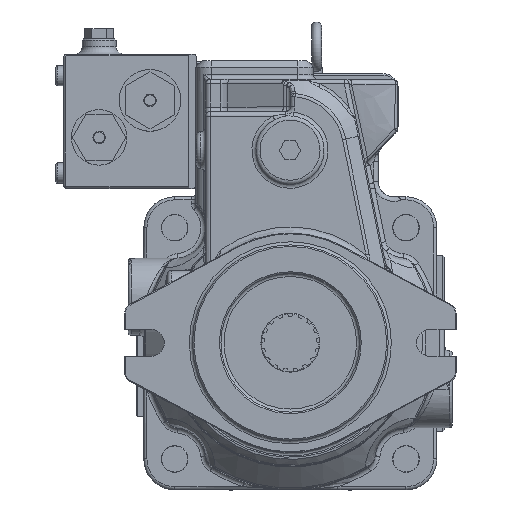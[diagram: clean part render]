
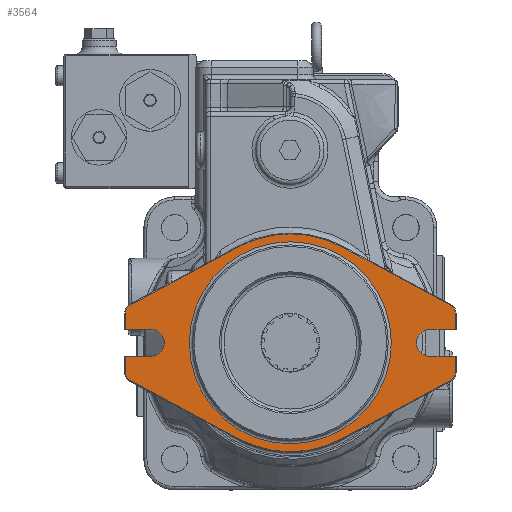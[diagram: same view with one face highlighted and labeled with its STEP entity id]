
A CAD part, top view. The second image highlights one B-rep face of the part: STEP entity #3564.
In plain terms, the highlighted planar face has unit normal (0, 0, 1).
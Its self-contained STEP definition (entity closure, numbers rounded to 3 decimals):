
#1576=CARTESIAN_POINT('',(-90.5,8.75,25.296));
#1577=VERTEX_POINT('',#1576);
#1584=CARTESIAN_POINT('',(-107.,8.75,25.296));
#1585=VERTEX_POINT('',#1584);
#1586=CARTESIAN_POINT('',(-90.5,8.75,25.296));
#1587=DIRECTION('',(-1.0,0.0,0.0));
#1588=VECTOR('',#1587,16.5);
#1589=LINE('',#1586,#1588);
#1590=EDGE_CURVE('',#1577,#1585,#1589,.T.);
#1960=CARTESIAN_POINT('',(90.5,-8.75,25.296));
#1961=VERTEX_POINT('',#1960);
#1968=CARTESIAN_POINT('',(107.,-8.75,25.296));
#1969=VERTEX_POINT('',#1968);
#1970=CARTESIAN_POINT('',(90.5,-8.75,25.296));
#1971=DIRECTION('',(1.0,0.0,0.0));
#1972=VECTOR('',#1971,16.5);
#1973=LINE('',#1970,#1972);
#1974=EDGE_CURVE('',#1961,#1969,#1973,.T.);
#2135=CARTESIAN_POINT('',(107.,8.75,25.296));
#2136=VERTEX_POINT('',#2135);
#2143=CARTESIAN_POINT('',(90.5,8.75,25.296));
#2144=VERTEX_POINT('',#2143);
#2145=CARTESIAN_POINT('',(107.,8.75,25.296));
#2146=DIRECTION('',(-1.0,0.0,0.0));
#2147=VECTOR('',#2146,16.5);
#2148=LINE('',#2145,#2147);
#2149=EDGE_CURVE('',#2136,#2144,#2148,.T.);
#2270=CARTESIAN_POINT('',(-107.,-8.75,25.296));
#2271=VERTEX_POINT('',#2270);
#2279=CARTESIAN_POINT('',(-107.,-19.23,25.296));
#2280=VERTEX_POINT('',#2279);
#2287=CARTESIAN_POINT('',(-107.,-19.23,25.296));
#2288=DIRECTION('',(0.0,1.0,0.0));
#2289=VECTOR('',#2288,10.48);
#2290=LINE('',#2287,#2289);
#2291=EDGE_CURVE('',#2280,#2271,#2290,.T.);
#2301=CARTESIAN_POINT('',(-103.872,-24.459,25.296));
#2302=VERTEX_POINT('',#2301);
#2309=CARTESIAN_POINT('',(-101.065,-19.23,25.296));
#2310=DIRECTION('',(0.,0.,-1.0));
#2311=DIRECTION('',(-0.473,-0.881,0.));
#2312=AXIS2_PLACEMENT_3D('',#2309,#2310,#2311);
#2313=CIRCLE('',#2312,5.935);
#2314=EDGE_CURVE('',#2302,#2280,#2313,.T.);
#2326=CARTESIAN_POINT('',(-33.433,-62.275,25.296));
#2327=VERTEX_POINT('',#2326);
#2334=CARTESIAN_POINT('',(-33.433,-62.275,25.296));
#2335=DIRECTION('',(-0.881,0.473,0.));
#2336=VECTOR('',#2335,79.948);
#2337=LINE('',#2334,#2336);
#2338=EDGE_CURVE('',#2327,#2302,#2337,.T.);
#2352=CARTESIAN_POINT('',(33.433,-62.275,25.296));
#2353=VERTEX_POINT('',#2352);
#2360=CARTESIAN_POINT('',(0.,0.,25.296));
#2361=DIRECTION('',(0.,0.,-1.0));
#2362=DIRECTION('',(0.473,-0.881,0.));
#2363=AXIS2_PLACEMENT_3D('',#2360,#2361,#2362);
#2364=CIRCLE('',#2363,70.683);
#2365=EDGE_CURVE('',#2353,#2327,#2364,.T.);
#2383=CARTESIAN_POINT('',(103.872,-24.459,25.296));
#2384=VERTEX_POINT('',#2383);
#2391=CARTESIAN_POINT('',(103.872,-24.459,25.296));
#2392=DIRECTION('',(-0.881,-0.473,0.));
#2393=VECTOR('',#2392,79.948);
#2394=LINE('',#2391,#2393);
#2395=EDGE_CURVE('',#2384,#2353,#2394,.T.);
#2412=CARTESIAN_POINT('',(107.,-19.23,25.296));
#2413=VERTEX_POINT('',#2412);
#2420=CARTESIAN_POINT('',(101.065,-19.23,25.296));
#2421=DIRECTION('',(0.0,0.0,-1.0));
#2422=DIRECTION('',(1.0,0.0,0.0));
#2423=AXIS2_PLACEMENT_3D('',#2420,#2421,#2422);
#2424=CIRCLE('',#2423,5.935);
#2425=EDGE_CURVE('',#2413,#2384,#2424,.T.);
#2438=CARTESIAN_POINT('',(107.,-8.75,25.296));
#2439=DIRECTION('',(0.0,-1.0,0.0));
#2440=VECTOR('',#2439,10.48);
#2441=LINE('',#2438,#2440);
#2442=EDGE_CURVE('',#1969,#2413,#2441,.T.);
#2474=CARTESIAN_POINT('',(-90.5,-8.75,25.296));
#2475=VERTEX_POINT('',#2474);
#2476=CARTESIAN_POINT('',(-107.,-8.75,25.296));
#2477=DIRECTION('',(1.0,0.0,0.0));
#2478=VECTOR('',#2477,16.5);
#2479=LINE('',#2476,#2478);
#2480=EDGE_CURVE('',#2271,#2475,#2479,.T.);
#2497=CARTESIAN_POINT('',(-33.433,62.275,25.296));
#2498=VERTEX_POINT('',#2497);
#2505=CARTESIAN_POINT('',(33.433,62.275,25.296));
#2506=VERTEX_POINT('',#2505);
#2507=CARTESIAN_POINT('',(0.,0.,25.296));
#2508=DIRECTION('',(0.,0.,-1.0));
#2509=DIRECTION('',(-0.473,0.881,0.));
#2510=AXIS2_PLACEMENT_3D('',#2507,#2508,#2509);
#2511=CIRCLE('',#2510,70.683);
#2512=EDGE_CURVE('',#2498,#2506,#2511,.T.);
#2535=CARTESIAN_POINT('',(-103.872,24.459,25.296));
#2536=VERTEX_POINT('',#2535);
#2543=CARTESIAN_POINT('',(-103.872,24.459,25.296));
#2544=DIRECTION('',(0.881,0.473,0.));
#2545=VECTOR('',#2544,79.948);
#2546=LINE('',#2543,#2545);
#2547=EDGE_CURVE('',#2536,#2498,#2546,.T.);
#2559=CARTESIAN_POINT('',(103.872,24.459,25.296));
#2560=VERTEX_POINT('',#2559);
#2569=CARTESIAN_POINT('',(33.433,62.275,25.296));
#2570=DIRECTION('',(0.881,-0.473,0.));
#2571=VECTOR('',#2570,79.948);
#2572=LINE('',#2569,#2571);
#2573=EDGE_CURVE('',#2506,#2560,#2572,.T.);
#2583=CARTESIAN_POINT('',(-107.,19.23,25.296));
#2584=VERTEX_POINT('',#2583);
#2591=CARTESIAN_POINT('',(-101.065,19.23,25.296));
#2592=DIRECTION('',(0.0,0.0,-1.0));
#2593=DIRECTION('',(-1.0,0.0,0.0));
#2594=AXIS2_PLACEMENT_3D('',#2591,#2592,#2593);
#2595=CIRCLE('',#2594,5.935);
#2596=EDGE_CURVE('',#2584,#2536,#2595,.T.);
#2608=CARTESIAN_POINT('',(107.,19.23,25.296));
#2609=VERTEX_POINT('',#2608);
#2618=CARTESIAN_POINT('',(101.065,19.23,25.296));
#2619=DIRECTION('',(0.,0.,-1.0));
#2620=DIRECTION('',(0.473,0.881,0.));
#2621=AXIS2_PLACEMENT_3D('',#2618,#2619,#2620);
#2622=CIRCLE('',#2621,5.935);
#2623=EDGE_CURVE('',#2560,#2609,#2622,.T.);
#2634=CARTESIAN_POINT('',(-107.,8.75,25.296));
#2635=DIRECTION('',(0.0,1.0,0.0));
#2636=VECTOR('',#2635,10.48);
#2637=LINE('',#2634,#2636);
#2638=EDGE_CURVE('',#1585,#2584,#2637,.T.);
#2653=CARTESIAN_POINT('',(107.,19.23,25.296));
#2654=DIRECTION('',(0.0,-1.0,0.0));
#2655=VECTOR('',#2654,10.48);
#2656=LINE('',#2653,#2655);
#2657=EDGE_CURVE('',#2609,#2136,#2656,.T.);
#3510=CARTESIAN_POINT('',(65.487,0.,25.296));
#3511=VERTEX_POINT('',#3510);
#3512=CARTESIAN_POINT('',(0.,0.,25.296));
#3513=DIRECTION('',(0.0,0.0,1.0));
#3514=DIRECTION('',(-1.0,0.0,0.0));
#3515=AXIS2_PLACEMENT_3D('',#3512,#3513,#3514);
#3516=CIRCLE('',#3515,65.487);
#3517=EDGE_CURVE('',#3511,#3511,#3516,.T.);
#3522=CARTESIAN_POINT('',(0.,0.,25.296));
#3523=DIRECTION('',(0.0,0.0,1.0));
#3524=DIRECTION('',(1.0,0.0,0.0));
#3525=AXIS2_PLACEMENT_3D('',#3522,#3523,#3524);
#3526=PLANE('',#3525);
#3527=ORIENTED_EDGE('',*,*,#2442,.F.);
#3528=ORIENTED_EDGE('',*,*,#1974,.F.);
#3529=CARTESIAN_POINT('',(90.5,0.,25.296));
#3530=DIRECTION('',(0.0,0.0,1.0));
#3531=DIRECTION('',(0.0,1.0,0.0));
#3532=AXIS2_PLACEMENT_3D('',#3529,#3530,#3531);
#3533=CIRCLE('',#3532,8.75);
#3534=EDGE_CURVE('',#2144,#1961,#3533,.T.);
#3535=ORIENTED_EDGE('',*,*,#3534,.F.);
#3536=ORIENTED_EDGE('',*,*,#2149,.F.);
#3537=ORIENTED_EDGE('',*,*,#2657,.F.);
#3538=ORIENTED_EDGE('',*,*,#2623,.F.);
#3539=ORIENTED_EDGE('',*,*,#2573,.F.);
#3540=ORIENTED_EDGE('',*,*,#2512,.F.);
#3541=ORIENTED_EDGE('',*,*,#2547,.F.);
#3542=ORIENTED_EDGE('',*,*,#2596,.F.);
#3543=ORIENTED_EDGE('',*,*,#2638,.F.);
#3544=ORIENTED_EDGE('',*,*,#1590,.F.);
#3545=CARTESIAN_POINT('',(-90.5,0.,25.296));
#3546=DIRECTION('',(0.0,0.0,1.0));
#3547=DIRECTION('',(0.0,-1.0,0.0));
#3548=AXIS2_PLACEMENT_3D('',#3545,#3546,#3547);
#3549=CIRCLE('',#3548,8.75);
#3550=EDGE_CURVE('',#2475,#1577,#3549,.T.);
#3551=ORIENTED_EDGE('',*,*,#3550,.F.);
#3552=ORIENTED_EDGE('',*,*,#2480,.F.);
#3553=ORIENTED_EDGE('',*,*,#2291,.F.);
#3554=ORIENTED_EDGE('',*,*,#2314,.F.);
#3555=ORIENTED_EDGE('',*,*,#2338,.F.);
#3556=ORIENTED_EDGE('',*,*,#2365,.F.);
#3557=ORIENTED_EDGE('',*,*,#2395,.F.);
#3558=ORIENTED_EDGE('',*,*,#2425,.F.);
#3559=EDGE_LOOP('',(#3527,#3528,#3535,#3536,#3537,#3538,#3539,#3540,#3541,#3542,#3543,#3544,#3551,#3552,#3553,#3554,#3555,#3556,#3557,#3558));
#3560=FACE_OUTER_BOUND('',#3559,.T.);
#3561=ORIENTED_EDGE('',*,*,#3517,.F.);
#3562=EDGE_LOOP('',(#3561));
#3563=FACE_BOUND('',#3562,.T.);
#3564=ADVANCED_FACE('',(#3560,#3563),#3526,.T.);
